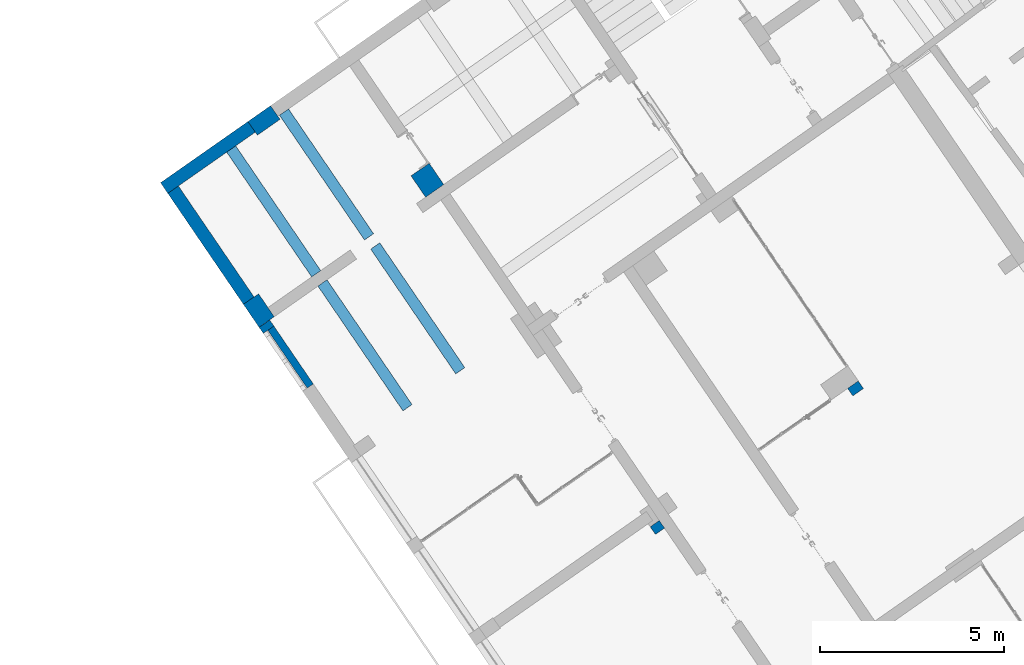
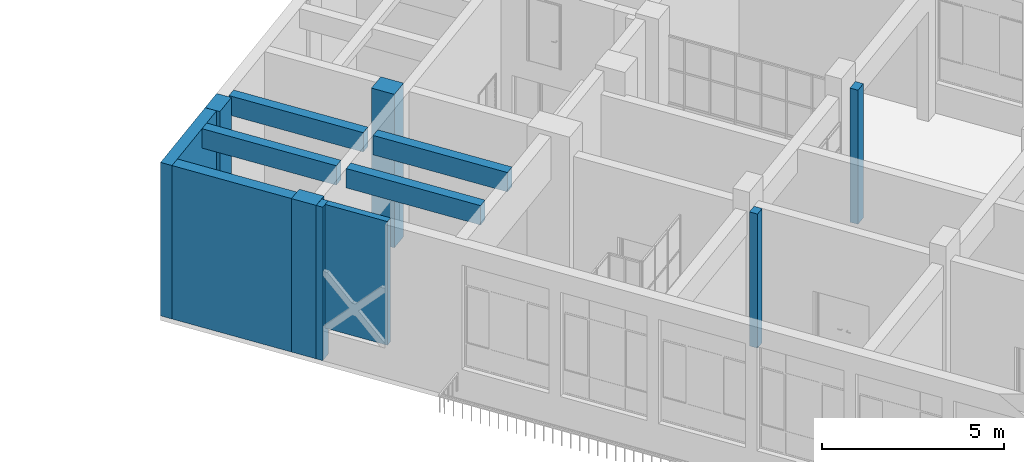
# One storey, part 93 of 157: 11 walls, 2 openings.
"""IFC2X3 building model written with IfcOpenShell, lengths in millimetres."""

from ifc_helpers import new_model, entity, si_unit, converted_unit, derived_unit, direction, frame, frame_2d, origin, origin_2d_with_axis, place, context, subcontext, project, spatial, polyline, rectangle, outline, extrude, material, layer, layer_set, layer_usage, type_object, element, save


model = new_model("IFC2X3")

# Units and contexts
model_context = context("Model", 3, precision=0.01, world=origin(), true_north=direction((6.123031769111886e-17, 1.0)))
body_context = subcontext(model_context, "Body", "Model", "MODEL_VIEW")
ifc_project = project(units=[si_unit("LENGTHUNIT", "METRE", prefix="MILLI"), si_unit("AREAUNIT", "SQUARE_METRE"), si_unit("VOLUMEUNIT", "CUBIC_METRE"), converted_unit("PLANEANGLEUNIT", "DEGREE", entity("IfcRatioMeasure", 0.017453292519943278), si_unit("PLANEANGLEUNIT", "RADIAN"), dimensions=[0, 0, 0, 0, 0, 0, 0]), si_unit("MASSUNIT", "GRAM", prefix="KILO"), derived_unit("MASSDENSITYUNIT", [(si_unit("MASSUNIT", "GRAM", prefix="KILO"), 1), (si_unit("LENGTHUNIT", "METRE"), -3)]), derived_unit("MOMENTOFINERTIAUNIT", [(si_unit("LENGTHUNIT", "METRE"), 4)]), si_unit("TIMEUNIT", "SECOND"), si_unit("FREQUENCYUNIT", "HERTZ"), si_unit("THERMODYNAMICTEMPERATUREUNIT", "DEGREE_CELSIUS"), derived_unit("THERMALTRANSMITTANCEUNIT", [(si_unit("MASSUNIT", "GRAM", prefix="KILO"), 1), (si_unit("THERMODYNAMICTEMPERATUREUNIT", "KELVIN"), -1), (si_unit("TIMEUNIT", "SECOND"), -3)]), derived_unit("THERMALCONDUCTANCEUNIT", [(si_unit("MASSUNIT", "GRAM", prefix="KILO"), 1), (si_unit("LENGTHUNIT", "METRE"), 1), (si_unit("THERMODYNAMICTEMPERATUREUNIT", "KELVIN"), -1), (si_unit("TIMEUNIT", "SECOND"), -3)]), derived_unit("VOLUMETRICFLOWRATEUNIT", [(si_unit("LENGTHUNIT", "METRE"), 3), (si_unit("TIMEUNIT", "SECOND"), -1)]), derived_unit("MASSFLOWRATEUNIT", [(si_unit("MASSUNIT", "GRAM", prefix="KILO"), 1), (si_unit("TIMEUNIT", "SECOND"), -1)]), derived_unit("ROTATIONALFREQUENCYUNIT", [(si_unit("TIMEUNIT", "SECOND"), -1)]), si_unit("ELECTRICCURRENTUNIT", "AMPERE"), si_unit("ELECTRICVOLTAGEUNIT", "VOLT"), si_unit("POWERUNIT", "WATT"), converted_unit("FORCEUNIT", "KIP", entity("IfcRatioMeasure", 2.088543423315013e-05), si_unit("FORCEUNIT", "NEWTON"), dimensions=[1, 1, -2, 0, 0, 0, 0]), si_unit("ILLUMINANCEUNIT", "LUX"), si_unit("LUMINOUSFLUXUNIT", "LUMEN"), si_unit("LUMINOUSINTENSITYUNIT", "CANDELA"), derived_unit("USERDEFINED", [(si_unit("MASSUNIT", "GRAM", prefix="KILO"), -1), (si_unit("LENGTHUNIT", "METRE"), -2), (si_unit("TIMEUNIT", "SECOND"), 3), (si_unit("LUMINOUSFLUXUNIT", "LUMEN"), 1)]), derived_unit("USERDEFINED", [(si_unit("MASSUNIT", "GRAM", prefix="KILO"), 1), (si_unit("LENGTHUNIT", "METRE"), 3), (si_unit("TIMEUNIT", "SECOND"), -3), (si_unit("ELECTRICCURRENTUNIT", "AMPERE"), -2)]), derived_unit("USERDEFINED", [(si_unit("LENGTHUNIT", "METRE"), 2), (si_unit("TIMEUNIT", "SECOND"), -2)]), derived_unit("SOUNDPOWERUNIT", [(si_unit("MASSUNIT", "GRAM", prefix="KILO"), 1), (si_unit("LENGTHUNIT", "METRE"), 2), (si_unit("TIMEUNIT", "SECOND"), -3)]), derived_unit("SOUNDPRESSUREUNIT", [(si_unit("MASSUNIT", "GRAM", prefix="KILO"), 1), (si_unit("LENGTHUNIT", "METRE"), -1), (si_unit("TIMEUNIT", "SECOND"), -2)]), derived_unit("LINEARVELOCITYUNIT", [(si_unit("LENGTHUNIT", "METRE"), 1), (si_unit("TIMEUNIT", "SECOND"), -1)]), si_unit("PRESSUREUNIT", "PASCAL"), derived_unit("USERDEFINED", [(si_unit("LENGTHUNIT", "METRE"), -2), (si_unit("MASSUNIT", "GRAM", prefix="KILO"), 1), (si_unit("TIMEUNIT", "SECOND"), -2)]), derived_unit("LINEARFORCEUNIT", [(si_unit("MASSUNIT", "GRAM", prefix="KILO"), 1), (si_unit("LENGTHUNIT", "METRE"), 1), (si_unit("TIMEUNIT", "SECOND"), -2), (si_unit("LENGTHUNIT", "METRE"), -1)]), derived_unit("PLANARFORCEUNIT", [(si_unit("MASSUNIT", "GRAM", prefix="KILO"), 1), (si_unit("LENGTHUNIT", "METRE"), 1), (si_unit("TIMEUNIT", "SECOND"), -2), (si_unit("LENGTHUNIT", "METRE"), -2)]), derived_unit("SPECIFICHEATCAPACITYUNIT", [(si_unit("LENGTHUNIT", "METRE"), 2), (si_unit("TIMEUNIT", "SECOND"), -2), (si_unit("THERMODYNAMICTEMPERATUREUNIT", "KELVIN"), -1)]), derived_unit("VAPORPERMEABILITYUNIT", [(si_unit("TIMEUNIT", "SECOND"), 1), (si_unit("LENGTHUNIT", "METRE"), -1)]), derived_unit("DYNAMICVISCOSITYUNIT", [(si_unit("MASSUNIT", "GRAM", prefix="KILO"), 1), (si_unit("LENGTHUNIT", "METRE"), -1), (si_unit("TIMEUNIT", "SECOND"), -1)]), derived_unit("THERMALEXPANSIONCOEFFICIENTUNIT", [(si_unit("THERMODYNAMICTEMPERATUREUNIT", "KELVIN"), -1)])], contexts=[model_context])

# Site, building, storey
site_placement = place(None, frame((0.0, 0.0, 0.0), z_axis=(0.0, 0.0, 1.0), x_axis=(0.8191520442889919, 0.5735764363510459, 0.0)))
site = spatial("IfcSite", under=ifc_project, at=site_placement, Name="Default", CompositionType="ELEMENT")
building_placement = place(site_placement, origin())
building = spatial("IfcBuilding", under=site, at=building_placement, CompositionType="ELEMENT")
storey_placement = place(building_placement, origin())
storey = spatial("IfcBuildingStorey", under=building, at=storey_placement, Name="1.EG +0.00", CompositionType="ELEMENT", Elevation=-4.331468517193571e-12)

# Walls
ifc_material = material(Name="Analytical Wall Surface_CJC")
ifc_layer_1 = layer(ifc_material, 350.0)
ifc_layer_set_1 = layer_set([ifc_layer_1], Name="Basic Wall:Wand_Aussen_35")
ifc_layer_usage_1 = layer_usage(ifc_layer_set_1, "AXIS2", "NEGATIVE", 175.0)
wall_type_1 = type_object("IfcWallType", Name="Basic Wall:Wand_Aussen_35", PredefinedType="STANDARD", material=ifc_layer_set_1)
wall_1_placement = place(storey_placement, frame((-222372.96114594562, 172846.35891435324, 0.0)))
element("IfcWallStandardCase", 1, at=wall_1_placement, inside=storey, type_object=wall_type_1, material=ifc_layer_usage_1, Name="Basic Wall:Wand_Aussen_35", ObjectType="Basic Wall:Wand_Aussen_35", context=body_context, shape_type="SweptSolid", body=[
    extrude(outline(polyline([(2898.961928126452, -175.0), (2898.9619281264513, 175.0), (4.455716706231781, 175.0), (0.0, -175.0), (350.0283608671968, -175.0), (2898.961928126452, -175.0)])), origin(), (0.0, 0.0, 1.0), 5150.000000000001),
])
wall_2_placement = place(storey_placement, frame((-222244.34613205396, 169026.66842788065, 0.0), z_axis=(0.0, 0.0, 1.0), x_axis=(0.012729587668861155, 0.999918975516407, 0.0)))
element("IfcWallStandardCase", 2, at=wall_2_placement, inside=storey, type_object=wall_type_1, material=ifc_layer_usage_1, Name="Basic Wall:Wand_Aussen_35", ObjectType="Basic Wall:Wand_Aussen_35", context=body_context, shape_type="SweptSolid", body=[
    extrude(outline(polyline([(3647.21367791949, -175.0), (3642.7579612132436, 175.0), (0.0, 175.0), (0.0, -175.0), (3647.21367791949, -175.0)])), origin(), (0.0, 0.0, 1.0), 5150.000000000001),
])
wall_3_placement = place(storey_placement, frame((-222256.5363673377, 168069.11600016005, 0.0), z_axis=(0.0, 0.0, 1.0), x_axis=(0.012729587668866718, 0.9999189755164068, 0.0)))
element("IfcWallStandardCase", 3, at=wall_3_placement, inside=storey, type_object=wall_type_1, material=ifc_layer_usage_1, Name="Basic Wall:Wand_Aussen_35", ObjectType="Basic Wall:Wand_Aussen_35", context=body_context, shape_type="SweptSolid", body=[
    extrude(rectangle(XDim=200.03144379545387, YDim=349.99999999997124, at=frame_2d((100.01572189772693, -1.1453948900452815e-11), x_axis=(-1.0, 0.0))), origin(), (0.0, 0.0, 1.0), 5150.000000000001),
])
ifc_layer_2 = layer(ifc_material, 450.00000000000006)
ifc_layer_set_2 = layer_set([ifc_layer_2], Name="Basic Wall:Wand_Aussen_45")
ifc_layer_usage_2 = layer_usage(ifc_layer_set_2, "AXIS2", "POSITIVE", -225.00000000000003)
wall_type_2 = type_object("IfcWallType", Name="Basic Wall:Wand_Aussen_45", PredefinedType="STANDARD", material=ifc_layer_set_2)
wall_4_placement = place(storey_placement, frame((-218723.9384445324, 172796.35891435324, 0.0), z_axis=(0.0, 0.0, 1.0), x_axis=(-1.0, 0.0, 0.0)))
element("IfcWallStandardCase", 4, at=wall_4_placement, inside=storey, type_object=wall_type_2, material=ifc_layer_usage_2, Name="Basic Wall:Wand_Aussen_45", ObjectType="Basic Wall:Wand_Aussen_45", context=body_context, shape_type="SweptSolid", body=[
    extrude(rectangle(XDim=750.0607732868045, YDim=450.00000000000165, at=frame_2d((375.03038664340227, 4.263256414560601e-13), x_axis=(-1.0, 0.0))), origin(), (0.0, 0.0, 1.0), 5150.000000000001),
])
ifc_layer_3 = layer(ifc_material, 300.0)
ifc_layer_set_3 = layer_set([ifc_layer_3], Name="Basic Wall:Wand_Innen_30")
ifc_layer_usage_3 = layer_usage(ifc_layer_set_3, "AXIS2", "NEGATIVE", 150.0)
wall_type_3 = type_object("IfcWallType", Name="Basic Wall:Wand_Innen_30", PredefinedType="STANDARD", material=ifc_layer_set_3)
wall_5_placement = place(storey_placement, frame((-216687.2343317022, 157491.3589143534, 0.0), z_axis=(0.0, 0.0, 1.0), x_axis=(0.0, 1.0, 0.0)))
element("IfcWallStandardCase", 5, at=wall_5_placement, inside=storey, type_object=wall_type_3, material=ifc_layer_usage_3, Name="Basic Wall:Wand_Innen_30", ObjectType="Basic Wall:Wand_Innen_30", context=body_context, shape_type="SweptSolid", body=[
    extrude(rectangle(XDim=250.00000000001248, YDim=300.0000000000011, at=frame_2d((125.00000000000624, 7.105427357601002e-13), x_axis=(-1.0, 0.0))), origin(), (0.0, 0.0, 1.0), 4500.0),
])

# Wall, opening
wall_6_placement = place(storey_placement, frame((-220381.03770659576, 164169.44947620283, 4500.0), z_axis=(0.0, 0.0, 1.0), x_axis=(0.012729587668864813, 0.999918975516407, 0.0)))
wall_6 = element("IfcWallStandardCase", 6, at=wall_6_placement, inside=storey, type_object=wall_type_3, material=ifc_layer_usage_3, Name="Basic Wall:Wand_Innen_30", ObjectType="Basic Wall:Wand_Innen_30", context=body_context, shape_type="SweptSolid", body=[
    extrude(outline(polyline([(0.0, 150.0), (3.819185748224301, -150.0), (8504.50794966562, -150.0), (8500.688763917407, 150.0), (0.0, 150.0)])), origin(), (0.0, 0.0, 1.0), 650.0000000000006),
])
opening_1_placement = place(storey_placement, frame((-220381.03770659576, 164169.44947620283, 4500.0), z_axis=(0.0, 0.0, 1.0), x_axis=(0.012729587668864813, 0.999918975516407, 0.0)))
element("IfcOpeningElement", 7, at=opening_1_placement, cuts=wall_6, Name="Basic Wall:Wand_Innen_30:1", ObjectType="Opening", context=body_context, shape_type="SweptSolid", body=[
    extrude(rectangle(XDim=650.0000000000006, YDim=300.0243093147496, at=origin_2d_with_axis()), frame((4102.241820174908, 0.0, 325.0), z_axis=(0.9999189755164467, 0.012729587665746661, 0.0), x_axis=(0.0, 0.0, -1.0)), (0.0, -0.012729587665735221, 0.9999189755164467), 300.02430931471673),
])

wall_7_placement = place(storey_placement, frame((-218630.8938764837, 164169.44947620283, 4500.0), z_axis=(0.0, 0.0, 1.0), x_axis=(0.012729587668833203, 0.9999189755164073, 0.0)))
wall_7 = element("IfcWallStandardCase", 8, at=wall_7_placement, inside=storey, type_object=wall_type_3, material=ifc_layer_usage_3, Name="Basic Wall:Wand_Innen_30", ObjectType="Basic Wall:Wand_Innen_30", context=body_context, shape_type="SweptSolid", body=[
    extrude(outline(polyline([(0.0, 150.0), (3.819185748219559, -150.0), (8504.50794966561, -150.0), (8500.688763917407, 150.0), (0.0, 150.0)])), origin(), (0.0, 0.0, 1.0), 650.0000000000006),
])
opening_2_placement = place(storey_placement, frame((-218630.8938764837, 164169.44947620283, 4500.0), z_axis=(0.0, 0.0, 1.0), x_axis=(0.012729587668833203, 0.9999189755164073, 0.0)))
element("IfcOpeningElement", 9, at=opening_2_placement, cuts=wall_7, Name="Basic Wall:Wand_Innen_30:1", ObjectType="Opening", context=body_context, shape_type="SweptSolid", body=[
    extrude(rectangle(XDim=650.0000000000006, YDim=300.0243093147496, at=origin_2d_with_axis()), frame((4102.241820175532, 0.0, 325.0), z_axis=(0.9999189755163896, 0.012729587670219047, 0.0), x_axis=(0.0, 0.0, -1.0)), (0.0, -0.012729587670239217, 0.9999189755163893), 300.02430931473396),
])

# Walls
ifc_layer_4 = layer(ifc_material, 350.0)
ifc_layer_set_4 = layer_set([ifc_layer_4], Name="Basic Wall:Wand_Innen_35")
ifc_layer_usage_4 = layer_usage(ifc_layer_set_4, "AXIS2", "NEGATIVE", 175.0)
wall_type_4 = type_object("IfcWallType", Name="Basic Wall:Wand_Innen_35", PredefinedType="STANDARD", material=ifc_layer_set_4)
wall_8_placement = place(storey_placement, frame((-210115.11098012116, 157498.59563147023, 0.0), z_axis=(0.0, 0.0, 1.0), x_axis=(0.0, 1.0, 0.0)))
element("IfcWallStandardCase", 10, at=wall_8_placement, inside=storey, type_object=wall_type_4, material=ifc_layer_usage_4, Name="Basic Wall:Wand_Innen_35", ObjectType="Basic Wall:Wand_Innen_35", context=body_context, shape_type="SweptSolid", body=[
    extrude(rectangle(XDim=247.76328288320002, YDim=350.0000000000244, at=frame_2d((123.88164144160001, 5.400124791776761e-13), x_axis=(-1.0, 0.0))), origin(), (0.0, 0.0, 1.0), 4500.0),
])
ifc_layer_5 = layer(ifc_material, 200.0)
ifc_layer_set_5 = layer_set([ifc_layer_5], Name="Basic Wall:Wand_Aussen_20")
ifc_layer_usage_5 = layer_usage(ifc_layer_set_5, "AXIS2", "NEGATIVE", 100.0)
wall_type_5 = type_object("IfcWallType", Name="Basic Wall:Wand_Aussen_20", PredefinedType="STANDARD", material=ifc_layer_set_5)
wall_9_placement = place(storey_placement, frame((-222205.73192903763, 166168.05854856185, 1000.0), z_axis=(0.0, 0.0, 1.0), x_axis=(0.01257766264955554, 0.9999208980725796, 0.0)))
element("IfcWallStandardCase", 11, at=wall_9_placement, inside=storey, type_object=wall_type_5, material=ifc_layer_usage_5, Name="Basic Wall:Wand_Aussen_20", ObjectType="Basic Wall:Wand_Aussen_20", context=body_context, shape_type="SweptSolid", body=[
    extrude(rectangle(XDim=1900.2567217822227, YDim=200.00000000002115, at=frame_2d((950.1283608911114, -1.0842882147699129e-11), x_axis=(-1.0, 0.0))), origin(), (0.0, 0.0, 1.0), 4150.000000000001),
])
ifc_layer_6 = layer(ifc_material, 500.00000000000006)
ifc_layer_set_6 = layer_set([ifc_layer_6], Name="Basic Wall:Wand_Aussen_50")
ifc_layer_usage_6 = layer_usage(ifc_layer_set_6, "AXIS2", "NEGATIVE", 250.00000000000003)
wall_type_6 = type_object("IfcWallType", Name="Basic Wall:Wand_Aussen_50", PredefinedType="STANDARD", material=ifc_layer_set_6)
wall_10_placement = place(storey_placement, frame((-222178.99612637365, 168268.17651743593, 0.0), z_axis=(0.0, 0.0, 1.0), x_axis=(0.012729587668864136, 0.999918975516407, 0.0)))
element("IfcWallStandardCase", 12, at=wall_10_placement, inside=storey, type_object=wall_type_6, material=ifc_layer_usage_6, Name="Basic Wall:Wand_Aussen_50", ObjectType="Basic Wall:Wand_Aussen_50", context=body_context, shape_type="SweptSolid", body=[
    extrude(outline(polyline([(757.5985754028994, -250.0), (757.598575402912, -100.0), (757.5985754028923, 250.0), (0.0, 250.0), (6.365309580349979, -250.0), (306.3896188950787, -250.0), (757.5985754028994, -250.0)])), origin(), (0.0, 0.0, 1.0), 5150.000000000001),
])
ifc_layer_7 = layer(ifc_material, 600.0)
ifc_layer_set_7 = layer_set([ifc_layer_7], Name="Basic Wall:Wand_Innen_60")
ifc_layer_usage_7 = layer_usage(ifc_layer_set_7, "AXIS2", "NEGATIVE", 300.0)
wall_type_7 = type_object("IfcWallType", Name="Basic Wall:Wand_Innen_60", PredefinedType="STANDARD", material=ifc_layer_set_7)
wall_11_placement = place(storey_placement, frame((-216399.47399594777, 168567.54003805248, 0.0), z_axis=(0.0, 0.0, 1.0), x_axis=(0.012729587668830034, 0.9999189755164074, 0.0)))
element("IfcWallStandardCase", 13, at=wall_11_placement, inside=storey, type_object=wall_type_7, material=ifc_layer_usage_7, Name="Basic Wall:Wand_Innen_60", ObjectType="Basic Wall:Wand_Innen_60", context=body_context, shape_type="SweptSolid", body=[
    extrude(outline(polyline([(703.8759074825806, -300.0), (703.8759074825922, 0.012153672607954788), (703.8759074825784, 300.0), (0.0, 300.0), (7.638371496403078, -300.0), (703.8759074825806, -300.0)])), origin(), (0.0, 0.0, 1.0), 5150.000000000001),
])

save(model, "model.ifc")
